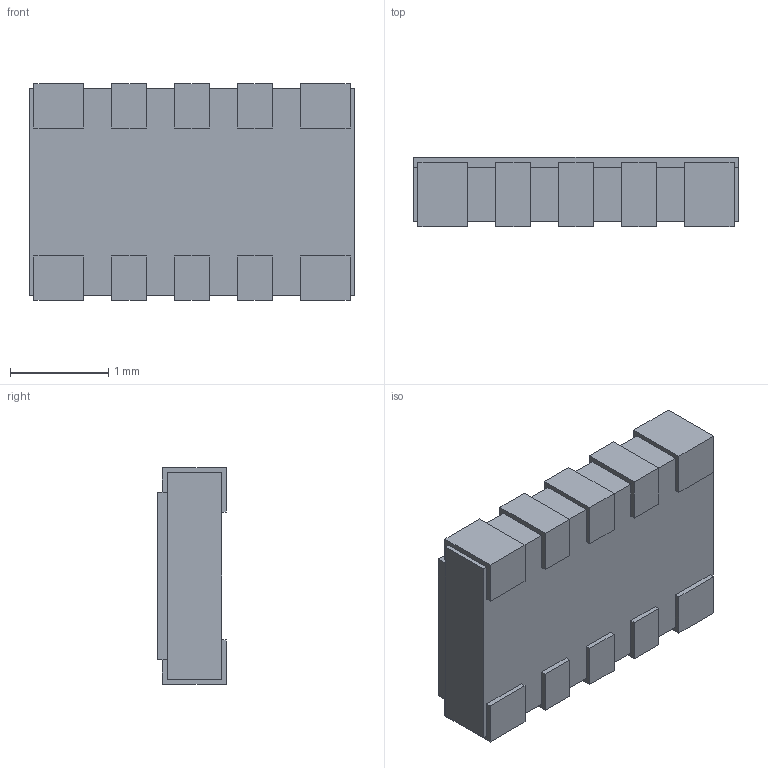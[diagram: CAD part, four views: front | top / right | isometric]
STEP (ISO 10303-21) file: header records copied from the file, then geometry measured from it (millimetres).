
FILE_DESCRIPTION (( 'STEP AP214' ), '1' );
FILE_NAME ( 'RESCAXS64P330X210X70-10.STEP', '2014-04-11T12:31:18', ( '' ), ( '' ), 'FPX Expert 2013', 'PCB Libraries', '' );
FILE_SCHEMA (( 'AUTOMOTIVE_DESIGN' ));
Length unit declared in the file: millimetre
Products named in the file (1): RESCAXS64P330X210X70-10
Bounding box: 3.3 x 0.7 x 2.2 mm (x, y, z)
Volume: 4.6 mm3; surface area: 43.9 mm2
Topology: 12 solids, 12 shells, 112 faces, 264 edges, 176 vertices
Faces by surface type: plane 112
Entity records: 3597 total; most frequent: CARTESIAN_POINT 553, ORIENTED_EDGE 528, DIRECTION 490, VECTOR 264, LINE 264, EDGE_CURVE 264, VERTEX_POINT 176, STYLED_ITEM 125
